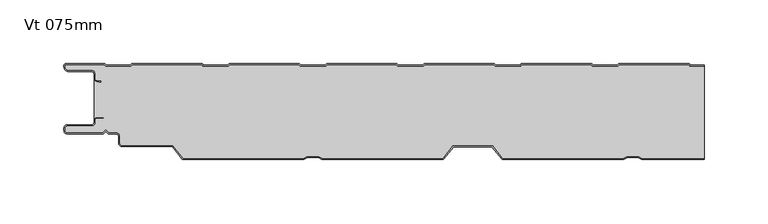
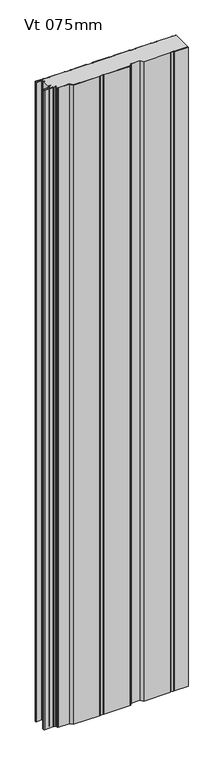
"""IFC4 building model written with IfcOpenShell, lengths in millimetres: plate geometry, KIP-MEX-KW-R19-CP-Vt-KW7_SL : Vt 075mm."""

from ifc_helpers import new_model, si_unit, point, frame_2d, origin, origin_with_axes, place, context, project, spatial, polyline, circle_curve, trimmed, segment, composite_curve, outline, extrude, source, transform, mapped, element, save


def vt_075mm_6c0b980a(model_context):
    return source(origin(), model_context, "Body", "SweptSolid", [
        extrude(outline(composite_curve([segment(polyline([(225.9039135, -2.1994992), (236.9739551, -2.1994992), (236.9739551, -74.0007512), (188.3805585, -74.0007512), (185.3803716, -72.5007486), (176.9082613, -72.5007486), (173.9080744, -74.0007512), (79.6249413, -74.0007512), (71.6249413, -64.0007512), (40.6636916, -64.0007512), (32.6636916, -74.0007512), (-61.6194415, -74.0007512), (-64.6196284, -72.5007486), (-73.0917387, -72.5007486), (-76.0919256, -74.0007512), (-170.3679967, -74.0007512), (-178.2758107, -63.8807501), (-218.2556822, -63.8807501)]), True, "CONTINUOUS"), segment(trimmed(circle_curve(frame_2d((-218.2060101, -62.3815743)), 1.4999984), [point((-218.2556822, -63.8807501))], [point((-219.7060085, -62.3815743))], False, "CARTESIAN"), True, "CONTINUOUS"), segment(polyline([(-219.7060085, -62.3815743), (-219.7060085, -56.8815682)]), True, "CONTINUOUS"), segment(trimmed(circle_curve(frame_2d((-222.7060141, -56.8815682)), 3.0000056), [point((-219.7060085, -56.8815682))], [point((-222.7060141, -53.8815626))], True, "CARTESIAN"), True, "CONTINUOUS"), segment(polyline([(-222.7060141, -53.8815626), (-228.2917754, -53.8815626), (-230.7060114, -51.4674051), (-233.1202474, -53.8817196), (-261.0062104, -53.8817196)]), True, "CONTINUOUS"), segment(trimmed(circle_curve(frame_2d((-261.0062104, -52.3814897)), 1.5002298), [point((-261.0062104, -53.8817196))], [point((-262.5064402, -52.3814897))], False, "CARTESIAN"), True, "CONTINUOUS"), segment(polyline([(-262.5064402, -52.3814897), (-262.5064402, -50.3983418)]), True, "CONTINUOUS"), segment(trimmed(circle_curve(frame_2d((-261.0055873, -50.3983418)), 1.5008529), [point((-262.5064402, -50.3983418))], [point((-261.0430722, -48.8979571))], False, "CARTESIAN"), True, "CONTINUOUS"), segment(polyline([(-261.0430722, -48.8979571), (-242.0059123, -48.8979571)]), True, "CONTINUOUS"), segment(trimmed(circle_curve(frame_2d((-242.0059123, -45.8966056)), 3.0013516), [point((-242.0059123, -48.8979571))], [point((-239.0056877, -45.8143642))], True, "CARTESIAN"), True, "CONTINUOUS"), segment(polyline([(-239.0056877, -45.8143642), (-239.0056877, -44.3893811)]), True, "CONTINUOUS"), segment(trimmed(circle_curve(frame_2d((-237.5051476, -44.3893811)), 1.5005402), [point((-239.0056877, -44.3893811))], [point((-237.5062722, -42.8888414))], False, "CARTESIAN"), True, "CONTINUOUS"), segment(polyline([(-237.5062722, -42.8888414), (-232.2480455, -42.8888414), (-232.2480455, -41.8719911), (-237.5115852, -41.8719911)]), True, "CONTINUOUS"), segment(trimmed(circle_curve(frame_2d((-237.5097191, -44.3622712)), 2.4902807), [point((-237.5115852, -41.8719911))], [point((-239.9999998, -44.3622712))], True, "CARTESIAN"), True, "CONTINUOUS"), segment(polyline([(-239.9999998, -44.3622712), (-239.9999998, -11.7956848)]), True, "CONTINUOUS"), segment(trimmed(circle_curve(frame_2d((-237.507267, -11.5959632)), 2.500721), [point((-239.9999998, -11.7956848))], [point((-237.9396711, -14.0590167))], True, "CARTESIAN"), True, "CONTINUOUS"), segment(polyline([(-237.9396711, -14.0590167), (-234.3973739, -14.6808886), (-234.2244628, -13.6959552), (-237.7667627, -13.0740827)]), True, "CONTINUOUS"), segment(trimmed(circle_curve(frame_2d((-237.5072716, -11.5959732)), 1.5007143), [point((-237.7667627, -13.0740827))], [point((-239.0079859, -11.5959732))], False, "CARTESIAN"), True, "CONTINUOUS"), segment(polyline([(-239.0079859, -11.5959732), (-239.0079859, -8.000131)]), True, "CONTINUOUS"), segment(trimmed(circle_curve(frame_2d((-242.0093089, -8.002219)), 3.0013237), [point((-239.0079859, -8.000131))], [point((-242.0093089, -5.0008953))], True, "CARTESIAN"), True, "CONTINUOUS"), segment(polyline([(-242.0093089, -5.0008953), (-260.0061347, -5.0008953)]), True, "CONTINUOUS"), segment(trimmed(circle_curve(frame_2d((-260.0061347, -2.5012654)), 2.4996299), [point((-260.0061347, -5.0008953))], [point((-262.5057646, -2.5012654))], False, "CARTESIAN"), True, "CONTINUOUS"), segment(polyline([(-262.5057646, -2.5012654), (-262.5057646, -1.0), (-232.0999194, -1.0), (-231.0133951, -2.1994992), (-211.0814168, -2.1994992), (-209.9948925, -1.0), (-155.9470346, -1.0), (-154.8605103, -2.1994992), (-134.928532, -2.1994992), (-133.8420077, -1.0), (-79.7941498, -1.0), (-78.7076256, -2.1994992), (-58.7756472, -2.1994992), (-57.689123, -1.0), (-3.6412651, -1.0), (-2.5547408, -2.1994992), (17.3772375, -2.1994992), (18.4637618, -1.0), (72.5116197, -1.0), (73.598144, -2.1994992), (93.5301223, -2.1994992), (94.6152208, -1.0), (148.6645044, -1.0), (149.7510287, -2.1994992), (169.683007, -2.1994992), (170.7695313, -1.0), (224.8173892, -1.0), (225.9039135, -2.1994992)]), True, "CONTINUOUS")], self_intersect=False)), origin_with_axes(), (0.0, 0.0, 1.0), 2400.0),
        extrude(outline(composite_curve([segment(polyline([(226.3473579, -1.1979254), (236.9739551, -1.1979254), (236.9739551, -2.1979254), (225.9039135, -2.1979254), (224.8173892, -0.9984262), (170.7695313, -0.9984262), (169.683007, -2.1979254), (149.7510287, -2.1979254), (148.6645044, -0.9984262), (94.6166466, -0.9984262), (93.5301223, -2.1979254), (73.598144, -2.1979254), (72.5116197, -0.9984262), (18.462336, -0.9984262), (17.3772375, -2.1979254), (-2.5547408, -2.1979254), (-3.6412651, -0.9984262), (-57.6905487, -0.9984262), (-58.7756472, -2.1979254), (-78.7076256, -2.1979254), (-79.7941498, -0.9984262), (-133.8434335, -0.9984262), (-134.928532, -2.1979254), (-154.8605103, -2.1979254), (-155.9470346, -0.9984262), (-209.9963182, -0.9984262), (-211.0814168, -2.1979254), (-231.0133951, -2.1979254), (-232.0999194, -0.9984262), (-262.5058795, -0.9984262), (-262.5058795, -2.4998352)]), True, "CONTINUOUS"), segment(trimmed(circle_curve(frame_2d((-260.0060773, -2.4998352)), 2.4998022), [point((-262.5058795, -2.4998352))], [point((-260.0060773, -4.9996374))], True, "CARTESIAN"), True, "CONTINUOUS"), segment(polyline([(-260.0060773, -4.9996374), (-242.0051314, -4.9996374)]), True, "CONTINUOUS"), segment(trimmed(circle_curve(frame_2d((-242.0051314, -8.0003457)), 3.0007082), [point((-242.0051314, -4.9996374))], [point((-239.0044239, -7.9982581))], False, "CARTESIAN"), True, "CONTINUOUS"), segment(polyline([(-239.0044239, -7.9982581), (-239.0044239, -11.5945268)]), True, "CONTINUOUS"), segment(trimmed(circle_curve(frame_2d((-237.504025, -11.5945268)), 1.5003989), [point((-239.0044239, -11.5945268))], [point((-237.7635333, -13.072313))], True, "CARTESIAN"), True, "CONTINUOUS"), segment(polyline([(-237.7635333, -13.072313), (-234.2214587, -13.694323), (-234.3944392, -14.679371), (-237.9367138, -14.0573259)]), True, "CONTINUOUS"), segment(trimmed(circle_curve(frame_2d((-237.5042133, -11.5944251)), 2.5005873), [point((-237.9367138, -14.0573259))], [point((-240.0048002, -11.5958995))], False, "CARTESIAN"), True, "CONTINUOUS"), segment(polyline([(-240.0048002, -11.5958995), (-240.0048002, -7.9987586)]), True, "CONTINUOUS"), segment(trimmed(circle_curve(frame_2d((-242.0053159, -8.0002578)), 2.0005162), [point((-240.0048002, -7.9987586))], [point((-242.0053159, -5.9997416))], True, "CARTESIAN"), True, "CONTINUOUS"), segment(polyline([(-242.0053159, -5.9997416), (-260.0060748, -5.9997416)]), True, "CONTINUOUS"), segment(trimmed(circle_curve(frame_2d((-260.0060748, -2.4998716)), 3.49987), [point((-260.0060748, -5.9997416))], [point((-263.5059449, -2.4998716))], False, "CARTESIAN"), True, "CONTINUOUS"), segment(polyline([(-263.5059449, -2.4998716), (-263.5059449, -1.4999879)]), True, "CONTINUOUS"), segment(trimmed(circle_curve(frame_2d((-262.0059812, -1.4999879)), 1.4999637), [point((-263.5059449, -1.4999879))], [point((-262.0059812, -2.42e-05))], False, "CARTESIAN"), True, "CONTINUOUS"), segment(polyline([(-262.0059812, -2.42e-05), (-231.6550494, -2.42e-05), (-230.5699507, -1.1979254), (-211.5248611, -1.1979254), (-210.4383368, 0.0), (-155.5021646, 0.0), (-154.4170659, -1.1979254), (-135.3719764, -1.1979254), (-134.2854521, 0.0), (-79.3492799, 0.0), (-78.2641812, -1.1979254), (-59.2190916, -1.1979254), (-58.1325673, 0.0), (-3.1963951, 0.0), (-2.1112964, -1.1979254), (16.9337932, -1.1979254), (18.0203174, 0.0), (72.9564896, 0.0), (74.0415883, -1.1979254), (93.0866779, -1.1979254), (94.1732022, 0.0), (149.1093744, 0.0), (150.1944731, -1.1979254), (169.2395627, -1.1979254), (170.326087, 0.0), (225.2622592, 0.0), (226.3473579, -1.1979254)]), True, "CONTINUOUS")], self_intersect=False)), origin_with_axes(), (0.0, 0.0, 1.0), 2400.0),
        extrude(outline(composite_curve([segment(polyline([(188.3805585, -74.0), (236.9739551, -74.0), (236.9739551, -75.0), (188.1445033, -75.0), (185.1443164, -73.4999975), (177.1443165, -73.4999975), (174.1443165, -74.9999065), (79.1443164, -74.9999065), (71.1443164, -65.0), (41.1443164, -65.0), (33.1443164, -75.0), (-61.8554967, -75.0), (-64.8556836, -73.4999975), (-72.8556835, -73.4999975), (-75.8556835, -74.9999065), (-170.8556836, -74.9999065), (-178.7634976, -64.879999), (-218.2701401, -64.879999)]), True, "CONTINUOUS"), segment(trimmed(circle_curve(frame_2d((-218.2060102, -62.3808232)), 2.4999985), [point((-218.2701401, -64.879999))], [point((-220.7060087, -62.3808232))], False, "CARTESIAN"), True, "CONTINUOUS"), segment(polyline([(-220.7060087, -62.3808232), (-220.7060087, -56.8808174)]), True, "CONTINUOUS"), segment(trimmed(circle_curve(frame_2d((-222.706014, -56.8808174)), 2.0000053), [point((-220.7060087, -56.8808174))], [point((-222.706014, -54.8808121))], True, "CARTESIAN"), True, "CONTINUOUS"), segment(polyline([(-222.706014, -54.8808121), (-228.7059904, -54.8808121), (-230.7060114, -52.8808646), (-232.7060324, -54.8809591), (-261.0061977, -54.8809591)]), True, "CONTINUOUS"), segment(trimmed(circle_curve(frame_2d((-261.0061977, -52.380744)), 2.5002152), [point((-261.0061977, -54.8809591))], [point((-263.5064128, -52.380744))], False, "CARTESIAN"), True, "CONTINUOUS"), segment(polyline([(-263.5064128, -52.380744), (-263.5064128, -50.3976441)]), True, "CONTINUOUS"), segment(trimmed(circle_curve(frame_2d((-261.0056167, -50.3976441)), 2.5007962), [point((-263.5064128, -50.3976441))], [point((-261.0540005, -47.897316))], False, "CARTESIAN"), True, "CONTINUOUS"), segment(polyline([(-261.0540005, -47.897316), (-242.0056629, -47.897316)]), True, "CONTINUOUS"), segment(trimmed(circle_curve(frame_2d((-242.0056629, -45.8957279)), 2.0015882), [point((-242.0056629, -47.897316))], [point((-240.0040753, -45.8942278))], True, "CARTESIAN"), True, "CONTINUOUS"), segment(polyline([(-240.0040753, -45.8942278), (-240.0040753, -44.4646208)]), True, "CONTINUOUS"), segment(trimmed(circle_curve(frame_2d((-237.5056407, -44.3896216)), 2.4995601), [point((-240.0040753, -44.4646208))], [point((-237.5075139, -41.8900623))], False, "CARTESIAN"), True, "CONTINUOUS"), segment(polyline([(-237.5075139, -41.8900623), (-232.2480455, -41.8900623), (-232.2480455, -42.8880903), (-237.5062721, -42.8880903)]), True, "CONTINUOUS"), segment(trimmed(circle_curve(frame_2d((-237.5051475, -44.3886299)), 1.5005401), [point((-237.5062721, -42.8880903))], [point((-239.0056876, -44.3886299))], True, "CARTESIAN"), True, "CONTINUOUS"), segment(polyline([(-239.0056876, -44.3886299), (-239.0056876, -45.8136131)]), True, "CONTINUOUS"), segment(trimmed(circle_curve(frame_2d((-242.005912, -45.8958545)), 3.0013514), [point((-239.0056876, -45.8136131))], [point((-242.005912, -48.8972059))], False, "CARTESIAN"), True, "CONTINUOUS"), segment(polyline([(-242.005912, -48.8972059), (-261.0430722, -48.8972058)]), True, "CONTINUOUS"), segment(trimmed(circle_curve(frame_2d((-261.0055873, -50.3975906)), 1.5008529), [point((-261.0430722, -48.8972058))], [point((-262.5064402, -50.3975906))], True, "CARTESIAN"), True, "CONTINUOUS"), segment(polyline([(-262.5064402, -50.3975906), (-262.5064402, -52.3807386)]), True, "CONTINUOUS"), segment(trimmed(circle_curve(frame_2d((-261.0062104, -52.3807386)), 1.5002298), [point((-262.5064402, -52.3807386))], [point((-261.0062104, -53.8809684))], True, "CARTESIAN"), True, "CONTINUOUS"), segment(polyline([(-261.0062104, -53.8809684), (-233.1202474, -53.8809684), (-230.7060114, -51.4666539), (-228.2917754, -53.8808114), (-222.7060142, -53.8808114)]), True, "CONTINUOUS"), segment(trimmed(circle_curve(frame_2d((-222.7060142, -56.8808171)), 3.0000056), [point((-222.7060142, -53.8808114))], [point((-219.7060085, -56.8808171))], False, "CARTESIAN"), True, "CONTINUOUS"), segment(polyline([(-219.7060085, -56.8808171), (-219.7060085, -62.3808232)]), True, "CONTINUOUS"), segment(trimmed(circle_curve(frame_2d((-218.2060101, -62.3808232)), 1.4999984), [point((-219.7060085, -62.3808232))], [point((-218.2556822, -63.8799989))], True, "CARTESIAN"), True, "CONTINUOUS"), segment(polyline([(-218.2556822, -63.8799989), (-178.2758107, -63.8799989), (-170.3679967, -74.0), (-76.0919256, -74.0), (-73.0917387, -72.4999975), (-64.6196285, -72.4999975), (-61.6194415, -74.0), (32.6636916, -74.0), (40.6636916, -64.0), (71.6249413, -64.0), (79.6249413, -74.0), (173.9080744, -74.0), (176.9082613, -72.4999975), (185.3803715, -72.4999975), (188.3805585, -74.0)]), True, "CONTINUOUS")], self_intersect=False)), origin_with_axes(), (0.0, 0.0, 1.0), 2400.0),
    ])


if __name__ == "__main__":
    model = new_model("IFC4")
    model_context = context("Model", 3, world=origin())
    ifc_project = project(units=[si_unit("LENGTHUNIT", "METRE", prefix="MILLI")], contexts=[model_context])
    site = spatial("IfcSite", under=ifc_project)
    building = spatial("IfcBuilding", under=site)
    placement = place(None, origin())
    vt_075mm_shape = vt_075mm_6c0b980a(model_context)
    element("IfcPlate", 1, ObjectType="KIP-MEX-KW-R19-CP-Vt-KW7_SL : Vt 075mm", at=placement, inside=building, context=model_context, shape_type="MappedRepresentation", body=[
        mapped(vt_075mm_shape, transform((0.0, 0.0, 0.0), x_axis=(1.0, 0.0, 0.0), y_axis=(0.0, 1.0, 0.0), z_axis=(0.0, 0.0, 1.0))),
    ])
    save(model, "model.ifc")
